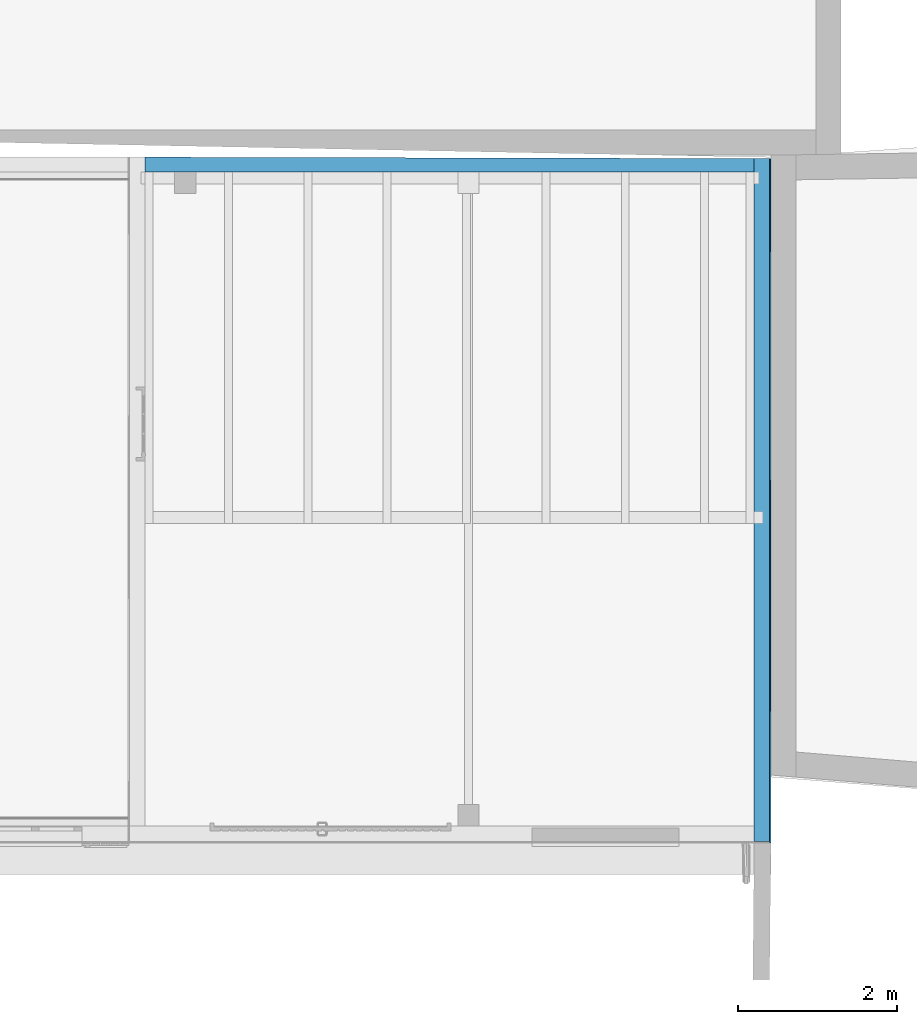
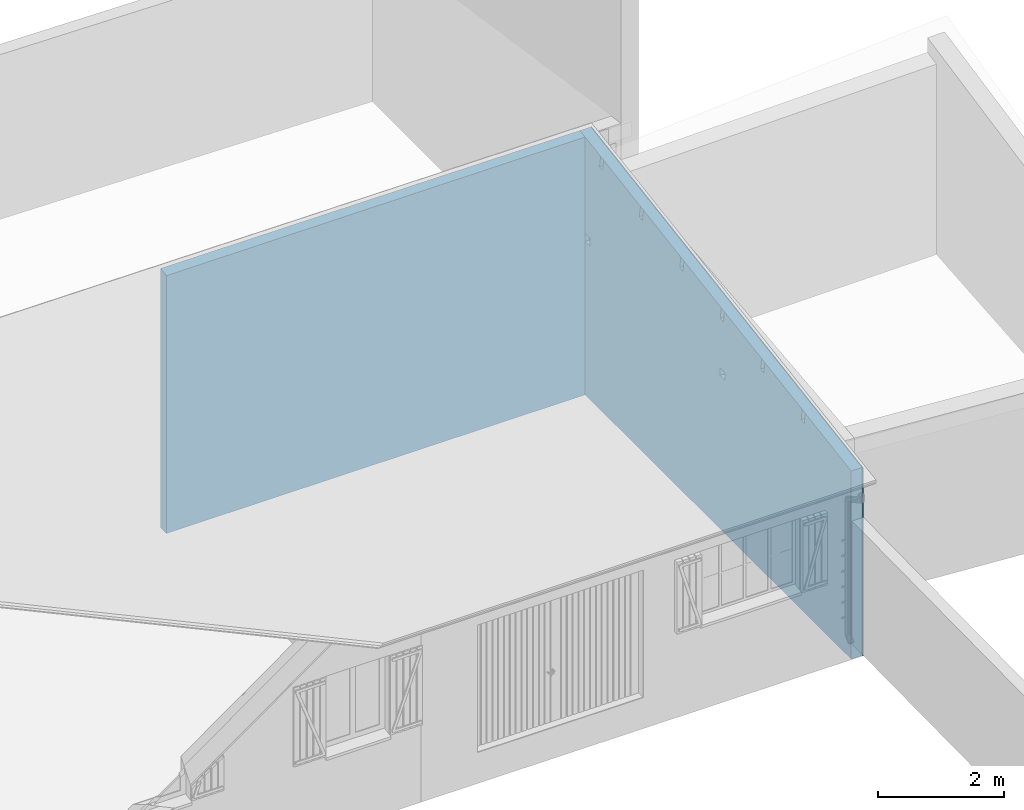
# One storey, part 11 of 12: 3 building element parts, 2 elements without a shape of their own.
"""IFC2X3 building model written with IfcOpenShell, lengths in metres."""

from ifc_helpers import new_model, entity, si_unit, converted_unit, derived_unit, money_unit, direction, frame, origin_with_axes, place, context, subcontext, project, spatial, polyline, outline, extrude, boolean, faceted_brep, material, type_object, element, aggregate, save


model = new_model("IFC2X3")

# Units and contexts
model_context = context("Model", 3, precision=1e-05, world=origin_with_axes(), true_north=direction((0.0, 1.0)))
body_context = subcontext(model_context, "Body", "Model", "MODEL_VIEW")
ifc_project = project(units=[si_unit("LENGTHUNIT", "METRE"), si_unit("AREAUNIT", "SQUARE_METRE"), si_unit("VOLUMEUNIT", "CUBIC_METRE"), converted_unit("PLANEANGLEUNIT", "DEGREE", entity("IfcPlaneAngleMeasure", 0.0174532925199), si_unit("PLANEANGLEUNIT", "RADIAN"), dimensions=[0, 0, 0, 0, 0, 0, 0]), si_unit("SOLIDANGLEUNIT", "STERADIAN"), money_unit("CHF"), converted_unit("TIMEUNIT", "Year", entity("IfcTimeMeasure", 31556926.0), si_unit("TIMEUNIT", "SECOND"), dimensions=[0, 0, 1, 0, 0, 0, 0]), si_unit("MASSUNIT", "GRAM", prefix="KILO"), si_unit("THERMODYNAMICTEMPERATUREUNIT", "DEGREE_CELSIUS"), si_unit("LUMINOUSINTENSITYUNIT", "LUMEN"), si_unit("ENERGYUNIT", "JOULE", prefix="MEGA"), derived_unit("THERMALCONDUCTANCEUNIT", [(si_unit("POWERUNIT", "WATT"), 1), (si_unit("LENGTHUNIT", "METRE"), -1), (si_unit("THERMODYNAMICTEMPERATUREUNIT", "KELVIN"), -1)]), derived_unit("SPECIFICHEATCAPACITYUNIT", [(si_unit("ENERGYUNIT", "JOULE"), 1), (si_unit("MASSUNIT", "GRAM", prefix="KILO"), -1), (si_unit("THERMODYNAMICTEMPERATUREUNIT", "KELVIN"), -1)]), derived_unit("MASSDENSITYUNIT", [(si_unit("MASSUNIT", "GRAM", prefix="KILO"), 1), (si_unit("VOLUMEUNIT", "CUBIC_METRE"), -1)])], contexts=[model_context])

# Site, building, storey
site_placement = place(None, origin_with_axes())
site = spatial("IfcSite", under=ifc_project, at=site_placement, Name="Site", CompositionType="ELEMENT")
building_placement = place(site_placement, origin_with_axes())
building = spatial("IfcBuilding", under=site, at=building_placement, Name="Bâtiment", CompositionType="ELEMENT")
storey_placement = place(building_placement, origin_with_axes())
storey = spatial("IfcBuildingStorey", under=building, at=storey_placement, Name="Rez-de-chaussée", CompositionType="ELEMENT", Elevation=0.0)

# Wall, building element part
wall_type = type_object("IfcWallType", Name="0.0 - Mur ext: revét ext + maçonnerie 215", PredefinedType="ELEMENTEDWALL")
wall_1_placement = place(storey_placement, frame((23.6021417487, 16.1929346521, -0.6), z_axis=(0.0, 0.0, 1.0), x_axis=(1.0, 0.0, 0.0)))
wall_1 = element("IfcWall", 1, at=wall_1_placement, inside=storey, type_object=wall_type, Name="MUR_EXT-004", ObjectType="ELEMENTEDWALL")
ifc_material_1 = material(Name="Brique ciment (extérieur)")
building_element_part_1_placement = place(wall_1_placement, origin_with_axes())
building_element_part_1 = element("IfcBuildingElementPart", 2, at=building_element_part_1_placement, material=ifc_material_1, Name="Brique ciment (extérieur)", context=body_context, shape_type="CSG", body=[
    boolean("DIFFERENCE", boolean("DIFFERENCE", extrude(outline(polyline([(-0.215, 0.0), (7.885, 0.0), (7.885, 0.2), (-0.215, 0.2), (-0.215, 0.0)])), origin_with_axes(), (0.0, 0.0, 1.0), 5.5967588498), faceted_brep([(0.0, 0.186019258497, 0.0), (0.0, 0.0, 0.0), (-0.215, 0.0, 0.0), (-0.215, 0.2, 0.0), (7.885, 0.2, 0.0), (7.885, 0.0, 0.0), (7.67, 0.0, 0.0), (7.67, 0.16814372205, 0.0), (0.0, 0.186019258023, 5.02256308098), (0.0, 0.0, 4.9927999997), (7.67, 0.0, 4.9927999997), (7.885, 0.0, 5.5967588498), (-0.215, 0.0, 5.5967588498), (-0.215, 0.2, 5.5967588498), (7.885, 0.2, 5.5967588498), (7.67, 0.168143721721, 5.01970299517)], [[[0, 1, 2, 3, 4, 5, 6, 7]], [[1, 0, 8, 9]], [[10, 6, 5, 11, 12, 2, 1, 9]], [[13, 3, 2, 12]], [[14, 4, 3, 13]], [[11, 5, 4, 14]], [[7, 6, 10, 15]], [[0, 7, 15, 8]], [[10, 9, 8, 15]], [[13, 12, 11, 14]]])), faceted_brep([(-0.215, 0.2, 5.5967588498), (-0.215, 0.2, 0.0), (7.885, 0.2, 0.0), (7.885, 0.2, 5.5967588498), (-0.215, 0.215, 5.5967588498), (-0.215, 0.215, 0.0), (7.885, 0.215, 0.0), (7.885, 0.215, 5.5967588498)], [[[0, 1, 2, 3]], [[4, 5, 1, 0]], [[2, 1, 5, 6]], [[3, 2, 6, 7]], [[4, 0, 3, 7]], [[7, 6, 5, 4]]])),
])
aggregate(wall_1, [building_element_part_1])

# Wall, building element parts
wall_2_placement = place(storey_placement, frame((31.2721417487, 16.1929346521, -0.6), z_axis=(0.0, 0.0, 1.0), x_axis=(0.0, -1.0, 0.0)))
wall_2 = element("IfcWall", 3, at=wall_2_placement, inside=storey, type_object=wall_type, Name="MUR_EXT-001", ObjectType="ELEMENTEDWALL")
building_element_part_2_placement = place(wall_2_placement, origin_with_axes())
solid_1 = boolean("DIFFERENCE", boolean("DIFFERENCE", boolean("DIFFERENCE", boolean("DIFFERENCE", boolean("DIFFERENCE", boolean("DIFFERENCE", boolean("DIFFERENCE", boolean("DIFFERENCE", extrude(outline(polyline([(-0.215, 0.0), (8.455, 0.0), (8.455, 0.2), (-0.215, 0.2), (-0.215, 0.0)])), origin_with_axes(), (0.0, 0.0, 1.0), 5.5967588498), faceted_brep([(6.98500770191, 0.0, 3.87376334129), (6.88626356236, 0.0, 3.88956191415), (6.85150670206, 0.0, 3.67232480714), (6.95025084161, 0.0, 3.65652623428), (6.98500770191, 0.0733046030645, 3.87376334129), (6.88626356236, 0.0733046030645, 3.88956191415), (6.85150670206, 0.0733046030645, 3.67232480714), (6.95025084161, 0.0733046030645, 3.65652623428)], [[[0, 1, 2, 3]], [[1, 0, 4, 5]], [[2, 1, 5, 6]], [[3, 2, 6, 7]], [[0, 3, 7, 4]], [[4, 7, 6, 5]]])), faceted_brep([(5.70133388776, 0.0, 4.0791447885), (5.60258974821, 0.0, 4.09494336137), (5.56783288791, 0.0, 3.87770625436), (5.66657702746, 0.0, 3.86190768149), (5.70133388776, 0.0733046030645, 4.0791447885), (5.60258974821, 0.0733046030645, 4.09494336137), (5.56783288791, 0.0733046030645, 3.87770625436), (5.66657702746, 0.0733046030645, 3.86190768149)], [[[0, 1, 2, 3]], [[1, 0, 4, 5]], [[2, 1, 5, 6]], [[3, 2, 6, 7]], [[0, 3, 7, 4]], [[4, 7, 6, 5]]])), faceted_brep([(4.4176600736, 0.0, 4.28452623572), (4.31891593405, 0.0, 4.30032480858), (4.28415907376, 0.0, 4.08308770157), (4.38290321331, 0.0, 4.06728912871), (4.4176600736, 0.0733046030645, 4.28452623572), (4.31891593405, 0.0733046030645, 4.30032480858), (4.28415907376, 0.0733046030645, 4.08308770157), (4.38290321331, 0.0733046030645, 4.06728912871)], [[[0, 1, 2, 3]], [[1, 0, 4, 5]], [[2, 1, 5, 6]], [[3, 2, 6, 7]], [[0, 3, 7, 4]], [[4, 7, 6, 5]]])), faceted_brep([(4.43017163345, 0.0, 2.97156535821), (4.43017163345, 0.0, 3.12156535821), (4.28017163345, 0.0, 3.12156535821), (4.28017163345, 0.0, 2.97156535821), (4.43017163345, 0.118633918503, 2.97156535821), (4.43017163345, 0.118633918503, 3.12156535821), (4.28017163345, 0.118633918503, 3.12156535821), (4.28017163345, 0.118633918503, 2.97156535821)], [[[0, 1, 2, 3]], [[1, 0, 4, 5]], [[2, 1, 5, 6]], [[3, 2, 6, 7]], [[0, 3, 7, 4]], [[5, 4, 7, 6]]])), faceted_brep([(3.13398625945, 0.0, 4.48990768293), (3.0352421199, 0.0, 4.5057062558), (3.0004852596, 0.0, 4.28846914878), (3.09922939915, 0.0, 4.27267057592), (3.13398625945, 0.0733046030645, 4.48990768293), (3.0352421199, 0.0733046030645, 4.5057062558), (3.0004852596, 0.0733046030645, 4.28846914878), (3.09922939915, 0.0733046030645, 4.27267057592)], [[[0, 1, 2, 3]], [[1, 0, 4, 5]], [[2, 1, 5, 6]], [[3, 2, 6, 7]], [[0, 3, 7, 4]], [[4, 7, 6, 5]]])), faceted_brep([(1.8503124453, 0.0, 4.69528913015), (1.75156830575, 0.0, 4.71108770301), (1.71681144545, 0.0, 4.493850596), (1.815555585, 0.0, 4.47805202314), (1.8503124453, 0.0733046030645, 4.69528913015), (1.75156830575, 0.0733046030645, 4.71108770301), (1.71681144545, 0.0733046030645, 4.493850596), (1.815555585, 0.0733046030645, 4.47805202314)], [[[0, 1, 2, 3]], [[1, 0, 4, 5]], [[2, 1, 5, 6]], [[3, 2, 6, 7]], [[0, 3, 7, 4]], [[4, 7, 6, 5]]])), faceted_brep([(0.589167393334, 0.0, 4.89706608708), (0.490423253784, 0.0, 4.91286465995), (0.455666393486, 0.0, 4.69562755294), (0.554410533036, 0.0, 4.67982898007), (0.589167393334, 0.0733046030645, 4.89706608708), (0.490423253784, 0.0733046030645, 4.91286465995), (0.455666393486, 0.0733046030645, 4.69562755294), (0.554410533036, 0.0733046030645, 4.67982898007)], [[[0, 1, 2, 3]], [[1, 0, 4, 5]], [[2, 1, 5, 6]], [[3, 2, 6, 7]], [[0, 3, 7, 4]], [[4, 7, 6, 5]]])), faceted_brep([(0.15, 0.0, 2.97156535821), (0.15, 0.0, 3.12156535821), (0.0, 0.0, 3.12156535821), (0.0, 0.0, 2.97156535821), (0.15, 0.0679465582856, 2.97156535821), (0.15, 0.0679465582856, 3.12156535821), (0.0, 0.0679465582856, 3.12156535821), (0.0, 0.0679465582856, 2.97156535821)], [[[0, 1, 2, 3]], [[1, 0, 4, 5]], [[2, 1, 5, 6]], [[3, 2, 6, 7]], [[0, 3, 7, 4]], [[5, 4, 7, 6]]]))
building_element_part_2 = element("IfcBuildingElementPart", 4, at=building_element_part_2_placement, material=ifc_material_1, Name="Brique ciment (extérieur)", context=body_context, shape_type="CSG", body=[
    boolean("DIFFERENCE", boolean("DIFFERENCE", solid_1, faceted_brep([(8.44, 0.2, 0.0), (8.44, 0.2, 3.6423999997), (-0.167677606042, 0.2, 5.01962841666), (-0.167677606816, 0.2, 0.0), (-0.215, 0.2, 0.0), (-0.215, 0.2, 5.5967588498), (8.455, 0.2, 5.5967588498), (8.455, 0.2, 0.0), (8.44, 0.0, 0.0), (8.44, 0.0, 3.6423999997), (-0.168143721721, 0.0, 5.01970299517), (-0.168143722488, 0.0, 0.0), (-0.215, 0.0, 0.0), (-0.215, 0.0, 5.5967588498), (8.455, 0.0, 5.5967588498), (8.455, 0.0, 0.0)], [[[0, 1, 2, 3, 4, 5, 6, 7]], [[1, 0, 8, 9]], [[9, 10, 2, 1]], [[11, 3, 2, 10]], [[3, 11, 12, 4]], [[5, 4, 12, 13]], [[5, 13, 14, 6]], [[14, 15, 7, 6]], [[8, 0, 7, 15]], [[9, 8, 15, 14, 13, 12, 11, 10]]])), faceted_brep([(-0.167642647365, 0.21500000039, 5.01962282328), (-0.167642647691, 0.215000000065, 0.0), (-0.215, 0.215, 0.0), (-0.215, 0.215, 5.5967588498), (8.455, 0.215, 5.5967588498), (8.455, 0.21500000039, 3.6399999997), (-0.167677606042, 0.2, 5.01962841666), (-0.167677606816, 0.2, 0.0), (-0.215, 0.2, 0.0), (-0.215, 0.2, 5.5967588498), (8.455, 0.2, 5.5967588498), (8.455, 0.2, 3.6399999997)], [[[0, 1, 2, 3, 4, 5]], [[1, 0, 6, 7]], [[1, 7, 8, 2]], [[3, 2, 8, 9]], [[3, 9, 10, 4]], [[11, 5, 4, 10]], [[0, 5, 11, 6]], [[11, 10, 9, 8, 7, 6]]])),
])
ifc_material_2 = material(Name="Finition ext - Crépis")
building_element_part_3_placement = place(wall_2_placement, origin_with_axes())
solid_2 = boolean("DIFFERENCE", boolean("DIFFERENCE", boolean("DIFFERENCE", boolean("DIFFERENCE", boolean("DIFFERENCE", boolean("DIFFERENCE", boolean("DIFFERENCE", boolean("DIFFERENCE", extrude(outline(polyline([(-0.215, 0.2), (8.455, 0.2), (8.455, 0.215), (-0.215, 0.215), (-0.215, 0.2)])), origin_with_axes(), (0.0, 0.0, 1.0), 5.5967588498), faceted_brep([(6.98500770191, 0.0, 3.87376334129), (6.88626356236, 0.0, 3.88956191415), (6.85150670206, 0.0, 3.67232480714), (6.95025084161, 0.0, 3.65652623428), (6.98500770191, 0.0733046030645, 3.87376334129), (6.88626356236, 0.0733046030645, 3.88956191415), (6.85150670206, 0.0733046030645, 3.67232480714), (6.95025084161, 0.0733046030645, 3.65652623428)], [[[0, 1, 2, 3]], [[1, 0, 4, 5]], [[2, 1, 5, 6]], [[3, 2, 6, 7]], [[0, 3, 7, 4]], [[4, 7, 6, 5]]])), faceted_brep([(5.70133388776, 0.0, 4.0791447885), (5.60258974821, 0.0, 4.09494336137), (5.56783288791, 0.0, 3.87770625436), (5.66657702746, 0.0, 3.86190768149), (5.70133388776, 0.0733046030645, 4.0791447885), (5.60258974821, 0.0733046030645, 4.09494336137), (5.56783288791, 0.0733046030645, 3.87770625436), (5.66657702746, 0.0733046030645, 3.86190768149)], [[[0, 1, 2, 3]], [[1, 0, 4, 5]], [[2, 1, 5, 6]], [[3, 2, 6, 7]], [[0, 3, 7, 4]], [[4, 7, 6, 5]]])), faceted_brep([(4.4176600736, 0.0, 4.28452623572), (4.31891593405, 0.0, 4.30032480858), (4.28415907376, 0.0, 4.08308770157), (4.38290321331, 0.0, 4.06728912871), (4.4176600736, 0.0733046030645, 4.28452623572), (4.31891593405, 0.0733046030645, 4.30032480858), (4.28415907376, 0.0733046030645, 4.08308770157), (4.38290321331, 0.0733046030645, 4.06728912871)], [[[0, 1, 2, 3]], [[1, 0, 4, 5]], [[2, 1, 5, 6]], [[3, 2, 6, 7]], [[0, 3, 7, 4]], [[4, 7, 6, 5]]])), faceted_brep([(4.43017163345, 0.0, 2.97156535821), (4.43017163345, 0.0, 3.12156535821), (4.28017163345, 0.0, 3.12156535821), (4.28017163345, 0.0, 2.97156535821), (4.43017163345, 0.118633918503, 2.97156535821), (4.43017163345, 0.118633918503, 3.12156535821), (4.28017163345, 0.118633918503, 3.12156535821), (4.28017163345, 0.118633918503, 2.97156535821)], [[[0, 1, 2, 3]], [[1, 0, 4, 5]], [[2, 1, 5, 6]], [[3, 2, 6, 7]], [[0, 3, 7, 4]], [[5, 4, 7, 6]]])), faceted_brep([(3.13398625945, 0.0, 4.48990768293), (3.0352421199, 0.0, 4.5057062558), (3.0004852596, 0.0, 4.28846914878), (3.09922939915, 0.0, 4.27267057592), (3.13398625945, 0.0733046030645, 4.48990768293), (3.0352421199, 0.0733046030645, 4.5057062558), (3.0004852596, 0.0733046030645, 4.28846914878), (3.09922939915, 0.0733046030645, 4.27267057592)], [[[0, 1, 2, 3]], [[1, 0, 4, 5]], [[2, 1, 5, 6]], [[3, 2, 6, 7]], [[0, 3, 7, 4]], [[4, 7, 6, 5]]])), faceted_brep([(1.8503124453, 0.0, 4.69528913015), (1.75156830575, 0.0, 4.71108770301), (1.71681144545, 0.0, 4.493850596), (1.815555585, 0.0, 4.47805202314), (1.8503124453, 0.0733046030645, 4.69528913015), (1.75156830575, 0.0733046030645, 4.71108770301), (1.71681144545, 0.0733046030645, 4.493850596), (1.815555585, 0.0733046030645, 4.47805202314)], [[[0, 1, 2, 3]], [[1, 0, 4, 5]], [[2, 1, 5, 6]], [[3, 2, 6, 7]], [[0, 3, 7, 4]], [[4, 7, 6, 5]]])), faceted_brep([(0.589167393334, 0.0, 4.89706608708), (0.490423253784, 0.0, 4.91286465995), (0.455666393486, 0.0, 4.69562755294), (0.554410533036, 0.0, 4.67982898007), (0.589167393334, 0.0733046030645, 4.89706608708), (0.490423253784, 0.0733046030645, 4.91286465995), (0.455666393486, 0.0733046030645, 4.69562755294), (0.554410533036, 0.0733046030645, 4.67982898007)], [[[0, 1, 2, 3]], [[1, 0, 4, 5]], [[2, 1, 5, 6]], [[3, 2, 6, 7]], [[0, 3, 7, 4]], [[4, 7, 6, 5]]])), faceted_brep([(0.15, 0.0, 2.97156535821), (0.15, 0.0, 3.12156535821), (0.0, 0.0, 3.12156535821), (0.0, 0.0, 2.97156535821), (0.15, 0.0679465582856, 2.97156535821), (0.15, 0.0679465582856, 3.12156535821), (0.0, 0.0679465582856, 3.12156535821), (0.0, 0.0679465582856, 2.97156535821)], [[[0, 1, 2, 3]], [[1, 0, 4, 5]], [[2, 1, 5, 6]], [[3, 2, 6, 7]], [[0, 3, 7, 4]], [[5, 4, 7, 6]]]))
building_element_part_3 = element("IfcBuildingElementPart", 5, at=building_element_part_3_placement, material=ifc_material_2, Name="Finition ext - Crépis", context=body_context, shape_type="CSG", body=[
    boolean("DIFFERENCE", boolean("DIFFERENCE", solid_2, faceted_brep([(8.44, 0.2, 0.0), (8.44, 0.2, 3.6423999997), (-0.167677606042, 0.2, 5.01962841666), (-0.167677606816, 0.2, 0.0), (-0.215, 0.2, 0.0), (-0.215, 0.2, 5.5967588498), (8.455, 0.2, 5.5967588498), (8.455, 0.2, 0.0), (8.44, 0.0, 0.0), (8.44, 0.0, 3.6423999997), (-0.168143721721, 0.0, 5.01970299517), (-0.168143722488, 0.0, 0.0), (-0.215, 0.0, 0.0), (-0.215, 0.0, 5.5967588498), (8.455, 0.0, 5.5967588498), (8.455, 0.0, 0.0)], [[[0, 1, 2, 3, 4, 5, 6, 7]], [[1, 0, 8, 9]], [[9, 10, 2, 1]], [[11, 3, 2, 10]], [[3, 11, 12, 4]], [[5, 4, 12, 13]], [[5, 13, 14, 6]], [[14, 15, 7, 6]], [[8, 0, 7, 15]], [[9, 8, 15, 14, 13, 12, 11, 10]]])), faceted_brep([(-0.167642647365, 0.21500000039, 5.01962282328), (-0.167642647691, 0.215000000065, 0.0), (-0.215, 0.215, 0.0), (-0.215, 0.215, 5.5967588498), (8.455, 0.215, 5.5967588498), (8.455, 0.21500000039, 3.6399999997), (-0.167677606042, 0.2, 5.01962841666), (-0.167677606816, 0.2, 0.0), (-0.215, 0.2, 0.0), (-0.215, 0.2, 5.5967588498), (8.455, 0.2, 5.5967588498), (8.455, 0.2, 3.6399999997)], [[[0, 1, 2, 3, 4, 5]], [[1, 0, 6, 7]], [[1, 7, 8, 2]], [[3, 2, 8, 9]], [[3, 9, 10, 4]], [[11, 5, 4, 10]], [[0, 5, 11, 6]], [[11, 10, 9, 8, 7, 6]]])),
])
aggregate(wall_2, [building_element_part_2, building_element_part_3])

save(model, "model.ifc")
